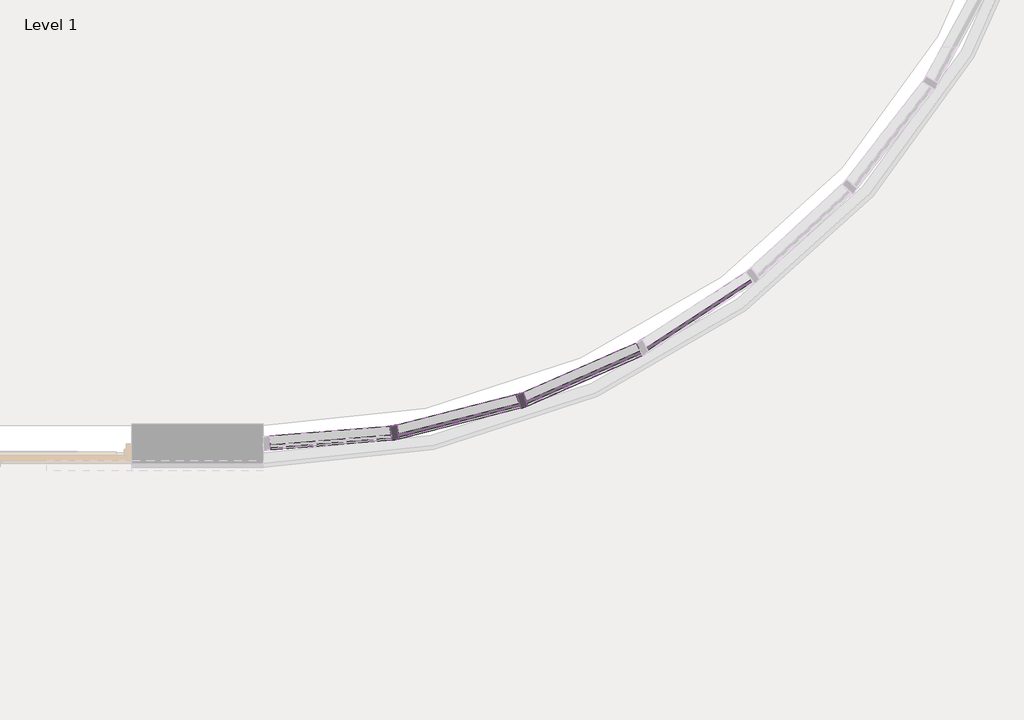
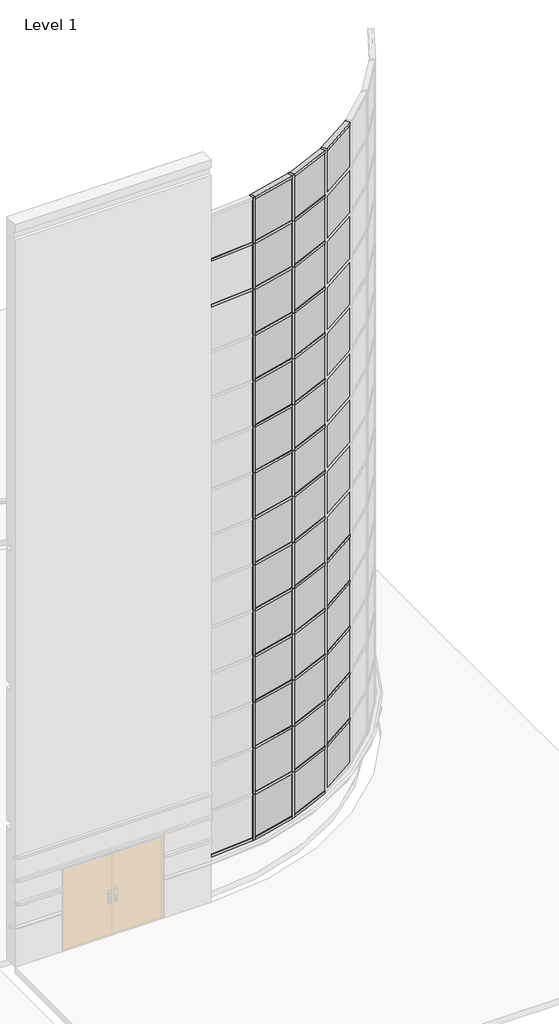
# One storey, part 5 of 20: 67 members, 42 plates.
"""IFC4 building model written with IfcOpenShell, lengths in millimetres."""

from ifc_helpers import new_model, si_unit, origin, place, context, project, spatial, transform, mapped, element, save
from components import member_68fe8548, member_252506b7, member_f830fa99, member_2e3765b8, member_935f61b8, system_panel_glazed_da602fa6, system_panel_glazed_77fd207e

model = new_model("IFC4")

# Units and contexts
model_context = context("Model", 3, world=origin())
ifc_project = project(units=[si_unit("LENGTHUNIT", "METRE", prefix="MILLI")], contexts=[model_context])

# Site, building, storey
site = spatial("IfcSite", under=ifc_project)
building = spatial("IfcBuilding", under=site)
storey = spatial("IfcBuildingStorey", under=building, Name="Level 1", Elevation=0.0)

# Members
placement = place(None, origin())
member_shape = member_68fe8548(model_context)
element("IfcMember", 1, ObjectType="Rectangular Mullion : 2.5\" x 5\" rectangular", at=placement, inside=storey, context=model_context, shape_type="MappedRepresentation", body=[
    mapped(member_shape, transform((21362.2965016, -8766.9966782, 17983.2), x_axis=(0.0, 0.0, 1.0), y_axis=(-0.5469481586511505, 0.8371664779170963, 0.0), z_axis=(-0.8371664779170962, -0.5469481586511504, 0.0))),
])
element("IfcMember", 2, ObjectType="Rectangular Mullion : 2.5\" x 5\" rectangular", at=placement, inside=storey, context=model_context, shape_type="MappedRepresentation", body=[
    mapped(member_shape, transform((20285.0352325, -9245.2338023, 17983.2), x_axis=(0.0, 0.0, 1.0), y_axis=(-0.4016954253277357, 0.9157733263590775, 0.0), z_axis=(-0.9157733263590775, -0.4016954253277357, 0.0))),
])
element("IfcMember", 3, ObjectType="Rectangular Mullion : 2.5\" x 5\" rectangular", at=placement, inside=storey, context=model_context, shape_type="MappedRepresentation", body=[
    mapped(member_shape, transform((19143.7511594, -9539.6370183, 17983.2), x_axis=(0.0, 0.0, 1.0), y_axis=(-0.24548548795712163, 0.9694002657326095, 0.0), z_axis=(-0.9694002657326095, -0.24548548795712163, 0.0))),
])
element("IfcMember", 4, ObjectType="Rectangular Mullion : 2.5\" x 5\" rectangular", at=placement, inside=storey, context=model_context, shape_type="MappedRepresentation", body=[
    mapped(member_shape, transform((21306.6406628, -8797.1161119, 1092.2), x_axis=(0.0, 0.0, -1.0), y_axis=(-0.401695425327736, 0.9157733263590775, 0.0), z_axis=(0.9157733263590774, 0.40169542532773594, 0.0))),
])
element("IfcMember", 5, ObjectType="Rectangular Mullion : 2.5\" x 5\" rectangular", at=placement, inside=storey, context=model_context, shape_type="MappedRepresentation", body=[
    mapped(member_shape, transform((20225.1809709, -9265.7817963, 1092.2), x_axis=(0.0, 0.0, -1.0), y_axis=(-0.24548548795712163, 0.9694002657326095, 0.0), z_axis=(0.9694002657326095, 0.24548548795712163, 0.0))),
])
member_2_shape = member_252506b7(model_context)
element("IfcMember", 6, ObjectType="Rectangular Mullion : 2.5\" x 5\" rectangular", at=placement, inside=storey, context=model_context, shape_type="MappedRepresentation", body=[
    mapped(member_2_shape, transform((19081.3311433, -9550.0530767, 1092.2), x_axis=(0.0, 0.0, -1.0), y_axis=(-0.08257934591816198, 0.9965844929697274, 0.0), z_axis=(0.9965844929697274, 0.08257934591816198, 0.0))),
])
member_3_shape = member_f830fa99(model_context)
element("IfcMember", 7, ObjectType="Rectangular Mullion : 2.5\" x 5\" rectangular", at=placement, inside=storey, context=model_context, shape_type="MappedRepresentation", body=[
    mapped(member_3_shape, transform((21362.2965016, -8766.9966782, 2298.7), x_axis=(0.0, 0.0, 1.0), y_axis=(-0.5469481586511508, 0.837166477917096, 0.0), z_axis=(-0.837166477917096, -0.5469481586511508, 0.0))),
])
element("IfcMember", 8, ObjectType="Rectangular Mullion : 2.5\" x 5\" rectangular", at=placement, inside=storey, context=model_context, shape_type="MappedRepresentation", body=[
    mapped(member_3_shape, transform((20285.0352325, -9245.2338023, 2298.7), x_axis=(0.0, 0.0, 1.0), y_axis=(-0.40169542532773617, 0.9157733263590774, 0.0), z_axis=(-0.9157733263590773, -0.4016954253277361, 0.0))),
])
element("IfcMember", 9, ObjectType="Rectangular Mullion : 2.5\" x 5\" rectangular", at=placement, inside=storey, context=model_context, shape_type="MappedRepresentation", body=[
    mapped(member_3_shape, transform((19143.7511594, -9539.6370183, 2298.7), x_axis=(0.0, 0.0, 1.0), y_axis=(-0.2454854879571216, 0.9694002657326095, 0.0), z_axis=(-0.9694002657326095, -0.2454854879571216, 0.0))),
])
element("IfcMember", 10, ObjectType="Rectangular Mullion : 2.5\" x 5\" rectangular", at=placement, inside=storey, context=model_context, shape_type="MappedRepresentation", body=[
    mapped(member_3_shape, transform((21362.2965016, -8766.9966782, 3505.2), x_axis=(0.0, 0.0, 1.0), y_axis=(-0.5469481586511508, 0.837166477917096, 0.0), z_axis=(-0.837166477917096, -0.5469481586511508, 0.0))),
])
element("IfcMember", 11, ObjectType="Rectangular Mullion : 2.5\" x 5\" rectangular", at=placement, inside=storey, context=model_context, shape_type="MappedRepresentation", body=[
    mapped(member_3_shape, transform((20285.0352325, -9245.2338023, 3505.2), x_axis=(0.0, 0.0, 1.0), y_axis=(-0.40169542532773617, 0.9157733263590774, 0.0), z_axis=(-0.9157733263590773, -0.4016954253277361, 0.0))),
])
element("IfcMember", 12, ObjectType="Rectangular Mullion : 2.5\" x 5\" rectangular", at=placement, inside=storey, context=model_context, shape_type="MappedRepresentation", body=[
    mapped(member_3_shape, transform((19143.7511594, -9539.6370183, 3505.2), x_axis=(0.0, 0.0, 1.0), y_axis=(-0.24548548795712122, 0.9694002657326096, 0.0), z_axis=(-0.9694002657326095, -0.2454854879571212, 0.0))),
])
element("IfcMember", 13, ObjectType="Rectangular Mullion : 2.5\" x 5\" rectangular", at=placement, inside=storey, context=model_context, shape_type="MappedRepresentation", body=[
    mapped(member_3_shape, transform((21362.2965016, -8766.9966782, 4711.7), x_axis=(0.0, 0.0, 1.0), y_axis=(-0.5469481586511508, 0.837166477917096, 0.0), z_axis=(-0.837166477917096, -0.5469481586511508, 0.0))),
])
element("IfcMember", 14, ObjectType="Rectangular Mullion : 2.5\" x 5\" rectangular", at=placement, inside=storey, context=model_context, shape_type="MappedRepresentation", body=[
    mapped(member_3_shape, transform((20285.0352325, -9245.2338023, 4711.7), x_axis=(0.0, 0.0, 1.0), y_axis=(-0.40169542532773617, 0.9157733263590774, 0.0), z_axis=(-0.9157733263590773, -0.4016954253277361, 0.0))),
])
element("IfcMember", 15, ObjectType="Rectangular Mullion : 2.5\" x 5\" rectangular", at=placement, inside=storey, context=model_context, shape_type="MappedRepresentation", body=[
    mapped(member_3_shape, transform((19143.7511594, -9539.6370183, 4711.7), x_axis=(0.0, 0.0, 1.0), y_axis=(-0.24548548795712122, 0.9694002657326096, 0.0), z_axis=(-0.9694002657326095, -0.2454854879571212, 0.0))),
])
element("IfcMember", 16, ObjectType="Rectangular Mullion : 2.5\" x 5\" rectangular", at=placement, inside=storey, context=model_context, shape_type="MappedRepresentation", body=[
    mapped(member_3_shape, transform((21362.2965016, -8766.9966782, 5918.2), x_axis=(0.0, 0.0, 1.0), y_axis=(-0.5469481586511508, 0.837166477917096, 0.0), z_axis=(-0.837166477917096, -0.5469481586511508, 0.0))),
])
element("IfcMember", 17, ObjectType="Rectangular Mullion : 2.5\" x 5\" rectangular", at=placement, inside=storey, context=model_context, shape_type="MappedRepresentation", body=[
    mapped(member_3_shape, transform((20285.0352325, -9245.2338023, 5918.2), x_axis=(0.0, 0.0, 1.0), y_axis=(-0.40169542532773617, 0.9157733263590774, 0.0), z_axis=(-0.9157733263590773, -0.4016954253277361, 0.0))),
])
element("IfcMember", 18, ObjectType="Rectangular Mullion : 2.5\" x 5\" rectangular", at=placement, inside=storey, context=model_context, shape_type="MappedRepresentation", body=[
    mapped(member_3_shape, transform((19143.7511594, -9539.6370183, 5918.2), x_axis=(0.0, 0.0, 1.0), y_axis=(-0.24548548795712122, 0.9694002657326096, 0.0), z_axis=(-0.9694002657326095, -0.2454854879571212, 0.0))),
])
element("IfcMember", 19, ObjectType="Rectangular Mullion : 2.5\" x 5\" rectangular", at=placement, inside=storey, context=model_context, shape_type="MappedRepresentation", body=[
    mapped(member_3_shape, transform((21362.2965016, -8766.9966782, 7124.7), x_axis=(0.0, 0.0, 1.0), y_axis=(-0.5469481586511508, 0.837166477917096, 0.0), z_axis=(-0.837166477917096, -0.5469481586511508, 0.0))),
])
element("IfcMember", 20, ObjectType="Rectangular Mullion : 2.5\" x 5\" rectangular", at=placement, inside=storey, context=model_context, shape_type="MappedRepresentation", body=[
    mapped(member_3_shape, transform((20285.0352325, -9245.2338023, 7124.7), x_axis=(0.0, 0.0, 1.0), y_axis=(-0.4016954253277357, 0.9157733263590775, 0.0), z_axis=(-0.9157733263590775, -0.4016954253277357, 0.0))),
])
element("IfcMember", 21, ObjectType="Rectangular Mullion : 2.5\" x 5\" rectangular", at=placement, inside=storey, context=model_context, shape_type="MappedRepresentation", body=[
    mapped(member_3_shape, transform((19143.7511594, -9539.6370183, 7124.7), x_axis=(0.0, 0.0, 1.0), y_axis=(-0.24548548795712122, 0.9694002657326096, 0.0), z_axis=(-0.9694002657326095, -0.2454854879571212, 0.0))),
])
element("IfcMember", 22, ObjectType="Rectangular Mullion : 2.5\" x 5\" rectangular", at=placement, inside=storey, context=model_context, shape_type="MappedRepresentation", body=[
    mapped(member_3_shape, transform((20285.0352325, -9245.2338023, 8331.2), x_axis=(0.0, 0.0, 1.0), y_axis=(-0.4016954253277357, 0.9157733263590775, 0.0), z_axis=(-0.9157733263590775, -0.4016954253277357, 0.0))),
])
element("IfcMember", 23, ObjectType="Rectangular Mullion : 2.5\" x 5\" rectangular", at=placement, inside=storey, context=model_context, shape_type="MappedRepresentation", body=[
    mapped(member_3_shape, transform((19143.7511594, -9539.6370183, 8331.2), x_axis=(0.0, 0.0, 1.0), y_axis=(-0.24548548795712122, 0.9694002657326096, 0.0), z_axis=(-0.9694002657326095, -0.2454854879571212, 0.0))),
])
element("IfcMember", 24, ObjectType="Rectangular Mullion : 2.5\" x 5\" rectangular", at=placement, inside=storey, context=model_context, shape_type="MappedRepresentation", body=[
    mapped(member_3_shape, transform((20285.0352325, -9245.2338023, 9537.7), x_axis=(0.0, 0.0, 1.0), y_axis=(-0.4016954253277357, 0.9157733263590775, 0.0), z_axis=(-0.9157733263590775, -0.4016954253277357, 0.0))),
])
element("IfcMember", 25, ObjectType="Rectangular Mullion : 2.5\" x 5\" rectangular", at=placement, inside=storey, context=model_context, shape_type="MappedRepresentation", body=[
    mapped(member_3_shape, transform((19143.7511594, -9539.6370183, 9537.7), x_axis=(0.0, 0.0, 1.0), y_axis=(-0.24548548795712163, 0.9694002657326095, 0.0), z_axis=(-0.9694002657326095, -0.24548548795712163, 0.0))),
])
element("IfcMember", 26, ObjectType="Rectangular Mullion : 2.5\" x 5\" rectangular", at=placement, inside=storey, context=model_context, shape_type="MappedRepresentation", body=[
    mapped(member_3_shape, transform((20285.0352325, -9245.2338023, 10744.2), x_axis=(0.0, 0.0, 1.0), y_axis=(-0.4016954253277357, 0.9157733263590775, 0.0), z_axis=(-0.9157733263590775, -0.4016954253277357, 0.0))),
])
element("IfcMember", 27, ObjectType="Rectangular Mullion : 2.5\" x 5\" rectangular", at=placement, inside=storey, context=model_context, shape_type="MappedRepresentation", body=[
    mapped(member_3_shape, transform((19143.7511594, -9539.6370183, 10744.2), x_axis=(0.0, 0.0, 1.0), y_axis=(-0.24548548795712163, 0.9694002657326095, 0.0), z_axis=(-0.9694002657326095, -0.24548548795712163, 0.0))),
])
element("IfcMember", 28, ObjectType="Rectangular Mullion : 2.5\" x 5\" rectangular", at=placement, inside=storey, context=model_context, shape_type="MappedRepresentation", body=[
    mapped(member_3_shape, transform((20285.0352325, -9245.2338023, 11950.7), x_axis=(0.0, 0.0, 1.0), y_axis=(-0.4016954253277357, 0.9157733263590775, 0.0), z_axis=(-0.9157733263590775, -0.4016954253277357, 0.0))),
])
element("IfcMember", 29, ObjectType="Rectangular Mullion : 2.5\" x 5\" rectangular", at=placement, inside=storey, context=model_context, shape_type="MappedRepresentation", body=[
    mapped(member_3_shape, transform((19143.7511594, -9539.6370183, 11950.7), x_axis=(0.0, 0.0, 1.0), y_axis=(-0.24548548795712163, 0.9694002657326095, 0.0), z_axis=(-0.9694002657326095, -0.24548548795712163, 0.0))),
])
element("IfcMember", 30, ObjectType="Rectangular Mullion : 2.5\" x 5\" rectangular", at=placement, inside=storey, context=model_context, shape_type="MappedRepresentation", body=[
    mapped(member_3_shape, transform((20285.0352325, -9245.2338023, 13157.2), x_axis=(0.0, 0.0, 1.0), y_axis=(-0.40169542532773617, 0.9157733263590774, 0.0), z_axis=(-0.9157733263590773, -0.4016954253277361, 0.0))),
])
element("IfcMember", 31, ObjectType="Rectangular Mullion : 2.5\" x 5\" rectangular", at=placement, inside=storey, context=model_context, shape_type="MappedRepresentation", body=[
    mapped(member_3_shape, transform((19143.7511594, -9539.6370183, 13157.2), x_axis=(0.0, 0.0, 1.0), y_axis=(-0.2454854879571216, 0.9694002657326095, 0.0), z_axis=(-0.9694002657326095, -0.2454854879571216, 0.0))),
])
element("IfcMember", 32, ObjectType="Rectangular Mullion : 2.5\" x 5\" rectangular", at=placement, inside=storey, context=model_context, shape_type="MappedRepresentation", body=[
    mapped(member_3_shape, transform((20285.0352325, -9245.2338023, 14363.7), x_axis=(0.0, 0.0, 1.0), y_axis=(-0.4016954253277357, 0.9157733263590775, 0.0), z_axis=(-0.9157733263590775, -0.4016954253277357, 0.0))),
])
element("IfcMember", 33, ObjectType="Rectangular Mullion : 2.5\" x 5\" rectangular", at=placement, inside=storey, context=model_context, shape_type="MappedRepresentation", body=[
    mapped(member_3_shape, transform((19143.7511594, -9539.6370183, 14363.7), x_axis=(0.0, 0.0, 1.0), y_axis=(-0.24548548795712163, 0.9694002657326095, 0.0), z_axis=(-0.9694002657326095, -0.24548548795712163, 0.0))),
])
element("IfcMember", 34, ObjectType="Rectangular Mullion : 2.5\" x 5\" rectangular", at=placement, inside=storey, context=model_context, shape_type="MappedRepresentation", body=[
    mapped(member_3_shape, transform((20285.0352325, -9245.2338023, 15570.2), x_axis=(0.0, 0.0, 1.0), y_axis=(-0.40169542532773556, 0.9157733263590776, 0.0), z_axis=(-0.9157733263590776, -0.40169542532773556, 0.0))),
])
element("IfcMember", 35, ObjectType="Rectangular Mullion : 2.5\" x 5\" rectangular", at=placement, inside=storey, context=model_context, shape_type="MappedRepresentation", body=[
    mapped(member_3_shape, transform((19143.7511594, -9539.6370183, 15570.2), x_axis=(0.0, 0.0, 1.0), y_axis=(-0.24548548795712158, 0.9694002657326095, 0.0), z_axis=(-0.9694002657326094, -0.24548548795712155, 0.0))),
])
element("IfcMember", 36, ObjectType="Rectangular Mullion : 2.5\" x 5\" rectangular", at=placement, inside=storey, context=model_context, shape_type="MappedRepresentation", body=[
    mapped(member_3_shape, transform((20285.0352325, -9245.2338023, 16776.7), x_axis=(0.0, 0.0, 1.0), y_axis=(-0.40169542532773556, 0.9157733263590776, 0.0), z_axis=(-0.9157733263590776, -0.40169542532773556, 0.0))),
])
element("IfcMember", 37, ObjectType="Rectangular Mullion : 2.5\" x 5\" rectangular", at=placement, inside=storey, context=model_context, shape_type="MappedRepresentation", body=[
    mapped(member_3_shape, transform((19143.7511594, -9539.6370183, 16776.7), x_axis=(0.0, 0.0, 1.0), y_axis=(-0.24548548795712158, 0.9694002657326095, 0.0), z_axis=(-0.9694002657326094, -0.24548548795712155, 0.0))),
])
member_4_shape = member_2e3765b8(model_context)
element("IfcMember", 38, ObjectType="Rectangular Mullion : 2.5\" x 5\" rectangular", at=placement, inside=storey, context=model_context, shape_type="MappedRepresentation", body=[
    mapped(member_4_shape, transform((18001.2170874, -9639.5538796, 15570.2), x_axis=(0.0, 0.0, 1.0), y_axis=(-0.08257934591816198, 0.9965844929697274, 0.0), z_axis=(-0.9965844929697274, -0.08257934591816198, 0.0))),
])
element("IfcMember", 39, ObjectType="Rectangular Mullion : 2.5\" x 5\" rectangular", at=placement, inside=storey, context=model_context, shape_type="MappedRepresentation", body=[
    mapped(member_4_shape, transform((18001.2170874, -9639.5538796, 16776.7), x_axis=(0.0, 0.0, 1.0), y_axis=(-0.08257934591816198, 0.9965844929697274, 0.0), z_axis=(-0.9965844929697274, -0.08257934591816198, 0.0))),
])
member_5_shape = member_935f61b8(model_context)
element("IfcMember", 40, ObjectType="Rectangular Mullion : 2.5\" x 5\" rectangular", at=placement, inside=storey, context=model_context, shape_type="MappedRepresentation", body=[
    mapped(member_5_shape, transform((20255.9594293, -9257.987632, 1092.2), x_axis=(-0.9458172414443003, -0.3246994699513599, 0.0), y_axis=(-0.3246994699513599, 0.9458172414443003, 0.0), z_axis=(0.0, 0.0, -1.0))),
])
element("IfcMember", 41, ObjectType="Rectangular Mullion : 2.5\" x 5\" rectangular", at=placement, inside=storey, context=model_context, shape_type="MappedRepresentation", body=[
    mapped(member_5_shape, transform((19112.972701, -9547.4311825, 1092.2), x_axis=(-0.986361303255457, -0.16459459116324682, 0.0), y_axis=(-0.16459459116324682, 0.986361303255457, 0.0), z_axis=(0.0, 0.0, -1.0))),
])
element("IfcMember", 42, ObjectType="Rectangular Mullion : 2.5\" x 5\" rectangular", at=placement, inside=storey, context=model_context, shape_type="MappedRepresentation", body=[
    mapped(member_5_shape, transform((20255.9594293, -9257.987632, 2298.7), x_axis=(-0.9458172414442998, -0.32469946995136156, 0.0), y_axis=(-0.32469946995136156, 0.9458172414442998, 0.0), z_axis=(0.0, 0.0, -1.0))),
])
element("IfcMember", 43, ObjectType="Rectangular Mullion : 2.5\" x 5\" rectangular", at=placement, inside=storey, context=model_context, shape_type="MappedRepresentation", body=[
    mapped(member_5_shape, transform((19112.972701, -9547.4311825, 2298.7), x_axis=(-0.986361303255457, -0.16459459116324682, 0.0), y_axis=(-0.16459459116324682, 0.986361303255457, 0.0), z_axis=(0.0, 0.0, -1.0))),
])
element("IfcMember", 44, ObjectType="Rectangular Mullion : 2.5\" x 5\" rectangular", at=placement, inside=storey, context=model_context, shape_type="MappedRepresentation", body=[
    mapped(member_5_shape, transform((20255.9594293, -9257.987632, 3505.2), x_axis=(-0.9458172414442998, -0.32469946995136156, 0.0), y_axis=(-0.32469946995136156, 0.9458172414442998, 0.0), z_axis=(0.0, 0.0, -1.0))),
])
element("IfcMember", 45, ObjectType="Rectangular Mullion : 2.5\" x 5\" rectangular", at=placement, inside=storey, context=model_context, shape_type="MappedRepresentation", body=[
    mapped(member_5_shape, transform((19112.972701, -9547.4311825, 3505.2), x_axis=(-0.986361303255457, -0.16459459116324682, 0.0), y_axis=(-0.16459459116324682, 0.986361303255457, 0.0), z_axis=(0.0, 0.0, -1.0))),
])
element("IfcMember", 46, ObjectType="Rectangular Mullion : 2.5\" x 5\" rectangular", at=placement, inside=storey, context=model_context, shape_type="MappedRepresentation", body=[
    mapped(member_5_shape, transform((20255.9594293, -9257.987632, 4711.7), x_axis=(-0.9458172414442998, -0.32469946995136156, 0.0), y_axis=(-0.32469946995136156, 0.9458172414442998, 0.0), z_axis=(0.0, 0.0, -1.0))),
])
element("IfcMember", 47, ObjectType="Rectangular Mullion : 2.5\" x 5\" rectangular", at=placement, inside=storey, context=model_context, shape_type="MappedRepresentation", body=[
    mapped(member_5_shape, transform((19112.972701, -9547.4311825, 4711.7), x_axis=(-0.986361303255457, -0.16459459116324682, 0.0), y_axis=(-0.16459459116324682, 0.986361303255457, 0.0), z_axis=(0.0, 0.0, -1.0))),
])
element("IfcMember", 48, ObjectType="Rectangular Mullion : 2.5\" x 5\" rectangular", at=placement, inside=storey, context=model_context, shape_type="MappedRepresentation", body=[
    mapped(member_5_shape, transform((20255.9594293, -9257.987632, 5918.2), x_axis=(-0.9458172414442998, -0.32469946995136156, 0.0), y_axis=(-0.32469946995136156, 0.9458172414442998, 0.0), z_axis=(0.0, 0.0, -1.0))),
])
element("IfcMember", 49, ObjectType="Rectangular Mullion : 2.5\" x 5\" rectangular", at=placement, inside=storey, context=model_context, shape_type="MappedRepresentation", body=[
    mapped(member_5_shape, transform((19112.972701, -9547.4311825, 5918.2), x_axis=(-0.986361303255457, -0.16459459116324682, 0.0), y_axis=(-0.16459459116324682, 0.986361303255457, 0.0), z_axis=(0.0, 0.0, -1.0))),
])
element("IfcMember", 50, ObjectType="Rectangular Mullion : 2.5\" x 5\" rectangular", at=placement, inside=storey, context=model_context, shape_type="MappedRepresentation", body=[
    mapped(member_5_shape, transform((20255.9594293, -9257.987632, 7124.7), x_axis=(-0.9458172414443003, -0.3246994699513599, 0.0), y_axis=(-0.3246994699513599, 0.9458172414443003, 0.0), z_axis=(0.0, 0.0, -1.0))),
])
element("IfcMember", 51, ObjectType="Rectangular Mullion : 2.5\" x 5\" rectangular", at=placement, inside=storey, context=model_context, shape_type="MappedRepresentation", body=[
    mapped(member_5_shape, transform((19112.972701, -9547.4311825, 7124.7), x_axis=(-0.986361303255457, -0.16459459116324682, 0.0), y_axis=(-0.16459459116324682, 0.986361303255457, 0.0), z_axis=(0.0, 0.0, -1.0))),
])
element("IfcMember", 52, ObjectType="Rectangular Mullion : 2.5\" x 5\" rectangular", at=placement, inside=storey, context=model_context, shape_type="MappedRepresentation", body=[
    mapped(member_5_shape, transform((20255.9594293, -9257.987632, 8331.2), x_axis=(-0.9458172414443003, -0.3246994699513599, 0.0), y_axis=(-0.3246994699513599, 0.9458172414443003, 0.0), z_axis=(0.0, 0.0, -1.0))),
])
element("IfcMember", 53, ObjectType="Rectangular Mullion : 2.5\" x 5\" rectangular", at=placement, inside=storey, context=model_context, shape_type="MappedRepresentation", body=[
    mapped(member_5_shape, transform((19112.972701, -9547.4311825, 8331.2), x_axis=(-0.986361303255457, -0.16459459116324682, 0.0), y_axis=(-0.16459459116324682, 0.986361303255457, 0.0), z_axis=(0.0, 0.0, -1.0))),
])
element("IfcMember", 54, ObjectType="Rectangular Mullion : 2.5\" x 5\" rectangular", at=placement, inside=storey, context=model_context, shape_type="MappedRepresentation", body=[
    mapped(member_5_shape, transform((20255.9594293, -9257.987632, 9537.7), x_axis=(-0.9458172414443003, -0.3246994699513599, 0.0), y_axis=(-0.3246994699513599, 0.9458172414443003, 0.0), z_axis=(0.0, 0.0, -1.0))),
])
element("IfcMember", 55, ObjectType="Rectangular Mullion : 2.5\" x 5\" rectangular", at=placement, inside=storey, context=model_context, shape_type="MappedRepresentation", body=[
    mapped(member_5_shape, transform((19112.972701, -9547.4311825, 9537.7), x_axis=(-0.986361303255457, -0.16459459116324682, 0.0), y_axis=(-0.16459459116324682, 0.986361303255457, 0.0), z_axis=(0.0, 0.0, -1.0))),
])
element("IfcMember", 56, ObjectType="Rectangular Mullion : 2.5\" x 5\" rectangular", at=placement, inside=storey, context=model_context, shape_type="MappedRepresentation", body=[
    mapped(member_5_shape, transform((20255.9594293, -9257.987632, 10744.2), x_axis=(-0.9458172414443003, -0.3246994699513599, 0.0), y_axis=(-0.3246994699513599, 0.9458172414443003, 0.0), z_axis=(0.0, 0.0, -1.0))),
])
element("IfcMember", 57, ObjectType="Rectangular Mullion : 2.5\" x 5\" rectangular", at=placement, inside=storey, context=model_context, shape_type="MappedRepresentation", body=[
    mapped(member_5_shape, transform((19112.972701, -9547.4311825, 10744.2), x_axis=(-0.986361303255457, -0.16459459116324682, 0.0), y_axis=(-0.16459459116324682, 0.986361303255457, 0.0), z_axis=(0.0, 0.0, -1.0))),
])
element("IfcMember", 58, ObjectType="Rectangular Mullion : 2.5\" x 5\" rectangular", at=placement, inside=storey, context=model_context, shape_type="MappedRepresentation", body=[
    mapped(member_5_shape, transform((20255.9594293, -9257.987632, 11950.7), x_axis=(-0.9458172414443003, -0.3246994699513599, 0.0), y_axis=(-0.3246994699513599, 0.9458172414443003, 0.0), z_axis=(0.0, 0.0, -1.0))),
])
element("IfcMember", 59, ObjectType="Rectangular Mullion : 2.5\" x 5\" rectangular", at=placement, inside=storey, context=model_context, shape_type="MappedRepresentation", body=[
    mapped(member_5_shape, transform((19112.972701, -9547.4311825, 11950.7), x_axis=(-0.986361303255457, -0.16459459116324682, 0.0), y_axis=(-0.16459459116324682, 0.986361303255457, 0.0), z_axis=(0.0, 0.0, -1.0))),
])
element("IfcMember", 60, ObjectType="Rectangular Mullion : 2.5\" x 5\" rectangular", at=placement, inside=storey, context=model_context, shape_type="MappedRepresentation", body=[
    mapped(member_5_shape, transform((20255.9594293, -9257.987632, 13157.2), x_axis=(-0.9458172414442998, -0.32469946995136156, 0.0), y_axis=(-0.32469946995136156, 0.9458172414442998, 0.0), z_axis=(0.0, 0.0, -1.0))),
])
element("IfcMember", 61, ObjectType="Rectangular Mullion : 2.5\" x 5\" rectangular", at=placement, inside=storey, context=model_context, shape_type="MappedRepresentation", body=[
    mapped(member_5_shape, transform((19112.972701, -9547.4311825, 13157.2), x_axis=(-0.986361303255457, -0.16459459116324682, 0.0), y_axis=(-0.16459459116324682, 0.986361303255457, 0.0), z_axis=(0.0, 0.0, -1.0))),
])
element("IfcMember", 62, ObjectType="Rectangular Mullion : 2.5\" x 5\" rectangular", at=placement, inside=storey, context=model_context, shape_type="MappedRepresentation", body=[
    mapped(member_5_shape, transform((20255.9594293, -9257.987632, 14363.7), x_axis=(-0.9458172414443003, -0.3246994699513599, 0.0), y_axis=(-0.3246994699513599, 0.9458172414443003, 0.0), z_axis=(0.0, 0.0, -1.0))),
])
element("IfcMember", 63, ObjectType="Rectangular Mullion : 2.5\" x 5\" rectangular", at=placement, inside=storey, context=model_context, shape_type="MappedRepresentation", body=[
    mapped(member_5_shape, transform((19112.972701, -9547.4311825, 14363.7), x_axis=(-0.986361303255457, -0.16459459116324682, 0.0), y_axis=(-0.16459459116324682, 0.986361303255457, 0.0), z_axis=(0.0, 0.0, -1.0))),
])
element("IfcMember", 64, ObjectType="Rectangular Mullion : 2.5\" x 5\" rectangular", at=placement, inside=storey, context=model_context, shape_type="MappedRepresentation", body=[
    mapped(member_5_shape, transform((20255.9594293, -9257.987632, 15570.2), x_axis=(-0.9458172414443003, -0.3246994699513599, 0.0), y_axis=(-0.3246994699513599, 0.9458172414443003, 0.0), z_axis=(0.0, 0.0, -1.0))),
])
element("IfcMember", 65, ObjectType="Rectangular Mullion : 2.5\" x 5\" rectangular", at=placement, inside=storey, context=model_context, shape_type="MappedRepresentation", body=[
    mapped(member_5_shape, transform((19112.972701, -9547.4311825, 15570.2), x_axis=(-0.9863613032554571, -0.16459459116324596, 0.0), y_axis=(-0.16459459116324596, 0.9863613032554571, 0.0), z_axis=(0.0, 0.0, -1.0))),
])
element("IfcMember", 66, ObjectType="Rectangular Mullion : 2.5\" x 5\" rectangular", at=placement, inside=storey, context=model_context, shape_type="MappedRepresentation", body=[
    mapped(member_5_shape, transform((20255.9594293, -9257.987632, 16776.7), x_axis=(-0.9458172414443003, -0.3246994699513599, 0.0), y_axis=(-0.3246994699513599, 0.9458172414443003, 0.0), z_axis=(0.0, 0.0, -1.0))),
])
element("IfcMember", 67, ObjectType="Rectangular Mullion : 2.5\" x 5\" rectangular", at=placement, inside=storey, context=model_context, shape_type="MappedRepresentation", body=[
    mapped(member_5_shape, transform((19112.972701, -9547.4311825, 16776.7), x_axis=(-0.9863613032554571, -0.16459459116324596, 0.0), y_axis=(-0.16459459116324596, 0.9863613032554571, 0.0), z_axis=(0.0, 0.0, -1.0))),
])

# Plates
system_panel_glazed_shape = system_panel_glazed_da602fa6(model_context)
element("IfcPlate", 68, ObjectType="System Panel : Glazed", at=placement, inside=storey, context=model_context, shape_type="MappedRepresentation", body=[
    mapped(system_panel_glazed_shape, transform((21829.2536598, -8461.91834, 1155.7), x_axis=(-0.8371664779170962, -0.5469481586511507, 0.0), y_axis=(0.5469481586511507, -0.8371664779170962, 0.0), z_axis=(0.0, 0.0, 1.0))),
])
element("IfcPlate", 69, ObjectType="System Panel : Glazed", at=placement, inside=storey, context=model_context, shape_type="MappedRepresentation", body=[
    mapped(system_panel_glazed_shape, transform((20795.8379476, -9021.1749571, 1155.7), x_axis=(-0.9157733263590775, -0.40169542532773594, 0.0), y_axis=(0.40169542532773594, -0.9157733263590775, 0.0), z_axis=(0.0, 0.0, 1.0))),
])
element("IfcPlate", 70, ObjectType="System Panel : Glazed", at=placement, inside=storey, context=model_context, shape_type="MappedRepresentation", body=[
    mapped(system_panel_glazed_shape, transform((19684.4660652, -9402.7094073, 1155.7), x_axis=(-0.9694002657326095, -0.24548548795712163, 0.0), y_axis=(0.24548548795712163, -0.9694002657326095, 0.0), z_axis=(0.0, 0.0, 1.0))),
])
element("IfcPlate", 71, ObjectType="System Panel : Glazed", at=placement, inside=storey, context=model_context, shape_type="MappedRepresentation", body=[
    mapped(system_panel_glazed_shape, transform((21829.2536598, -8461.91834, 16808.45), x_axis=(-0.8371664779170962, -0.5469481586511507, 0.0), y_axis=(0.5469481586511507, -0.8371664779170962, 0.0), z_axis=(0.0, 0.0, 1.0))),
])
element("IfcPlate", 72, ObjectType="System Panel : Glazed", at=placement, inside=storey, context=model_context, shape_type="MappedRepresentation", body=[
    mapped(system_panel_glazed_shape, transform((20795.8379476, -9021.1749571, 16808.45), x_axis=(-0.9157733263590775, -0.40169542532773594, 0.0), y_axis=(0.40169542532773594, -0.9157733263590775, 0.0), z_axis=(0.0, 0.0, 1.0))),
])
element("IfcPlate", 73, ObjectType="System Panel : Glazed", at=placement, inside=storey, context=model_context, shape_type="MappedRepresentation", body=[
    mapped(system_panel_glazed_shape, transform((19684.4660652, -9402.7094073, 16808.45), x_axis=(-0.9694002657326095, -0.24548548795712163, 0.0), y_axis=(0.24548548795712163, -0.9694002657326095, 0.0), z_axis=(0.0, 0.0, 1.0))),
])
system_panel_glazed_2_shape = system_panel_glazed_77fd207e(model_context)
element("IfcPlate", 74, ObjectType="System Panel : Glazed", at=placement, inside=storey, context=model_context, shape_type="MappedRepresentation", body=[
    mapped(system_panel_glazed_2_shape, transform((21829.2536598, -8461.91834, 2330.45), x_axis=(-0.8371664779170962, -0.5469481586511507, 0.0), y_axis=(0.5469481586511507, -0.8371664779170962, 0.0), z_axis=(0.0, 0.0, 1.0))),
])
element("IfcPlate", 75, ObjectType="System Panel : Glazed", at=placement, inside=storey, context=model_context, shape_type="MappedRepresentation", body=[
    mapped(system_panel_glazed_2_shape, transform((20795.8379476, -9021.1749571, 2330.45), x_axis=(-0.9157733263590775, -0.401695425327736, 0.0), y_axis=(0.401695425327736, -0.9157733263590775, 0.0), z_axis=(0.0, 0.0, 1.0))),
])
element("IfcPlate", 76, ObjectType="System Panel : Glazed", at=placement, inside=storey, context=model_context, shape_type="MappedRepresentation", body=[
    mapped(system_panel_glazed_2_shape, transform((19684.4660652, -9402.7094073, 2330.45), x_axis=(-0.9694002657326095, -0.24548548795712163, 0.0), y_axis=(0.24548548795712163, -0.9694002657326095, 0.0), z_axis=(0.0, 0.0, 1.0))),
])
element("IfcPlate", 77, ObjectType="System Panel : Glazed", at=placement, inside=storey, context=model_context, shape_type="MappedRepresentation", body=[
    mapped(system_panel_glazed_2_shape, transform((21829.2536598, -8461.91834, 3536.95), x_axis=(-0.8371664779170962, -0.5469481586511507, 0.0), y_axis=(0.5469481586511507, -0.8371664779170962, 0.0), z_axis=(0.0, 0.0, 1.0))),
])
element("IfcPlate", 78, ObjectType="System Panel : Glazed", at=placement, inside=storey, context=model_context, shape_type="MappedRepresentation", body=[
    mapped(system_panel_glazed_2_shape, transform((20795.8379476, -9021.1749571, 3536.95), x_axis=(-0.9157733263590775, -0.401695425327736, 0.0), y_axis=(0.401695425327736, -0.9157733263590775, 0.0), z_axis=(0.0, 0.0, 1.0))),
])
element("IfcPlate", 79, ObjectType="System Panel : Glazed", at=placement, inside=storey, context=model_context, shape_type="MappedRepresentation", body=[
    mapped(system_panel_glazed_2_shape, transform((19684.4660652, -9402.7094073, 3536.95), x_axis=(-0.9694002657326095, -0.24548548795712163, 0.0), y_axis=(0.24548548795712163, -0.9694002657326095, 0.0), z_axis=(0.0, 0.0, 1.0))),
])
element("IfcPlate", 80, ObjectType="System Panel : Glazed", at=placement, inside=storey, context=model_context, shape_type="MappedRepresentation", body=[
    mapped(system_panel_glazed_2_shape, transform((21829.2536598, -8461.91834, 4743.45), x_axis=(-0.8371664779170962, -0.5469481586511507, 0.0), y_axis=(0.5469481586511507, -0.8371664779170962, 0.0), z_axis=(0.0, 0.0, 1.0))),
])
element("IfcPlate", 81, ObjectType="System Panel : Glazed", at=placement, inside=storey, context=model_context, shape_type="MappedRepresentation", body=[
    mapped(system_panel_glazed_2_shape, transform((20795.8379476, -9021.1749571, 4743.45), x_axis=(-0.9157733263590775, -0.40169542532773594, 0.0), y_axis=(0.40169542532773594, -0.9157733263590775, 0.0), z_axis=(0.0, 0.0, 1.0))),
])
element("IfcPlate", 82, ObjectType="System Panel : Glazed", at=placement, inside=storey, context=model_context, shape_type="MappedRepresentation", body=[
    mapped(system_panel_glazed_2_shape, transform((19684.4660652, -9402.7094073, 4743.45), x_axis=(-0.9694002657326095, -0.24548548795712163, 0.0), y_axis=(0.24548548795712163, -0.9694002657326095, 0.0), z_axis=(0.0, 0.0, 1.0))),
])
element("IfcPlate", 83, ObjectType="System Panel : Glazed", at=placement, inside=storey, context=model_context, shape_type="MappedRepresentation", body=[
    mapped(system_panel_glazed_2_shape, transform((21829.2536598, -8461.91834, 5949.95), x_axis=(-0.8371664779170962, -0.5469481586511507, 0.0), y_axis=(0.5469481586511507, -0.8371664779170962, 0.0), z_axis=(0.0, 0.0, 1.0))),
])
element("IfcPlate", 84, ObjectType="System Panel : Glazed", at=placement, inside=storey, context=model_context, shape_type="MappedRepresentation", body=[
    mapped(system_panel_glazed_2_shape, transform((20795.8379476, -9021.1749571, 5949.95), x_axis=(-0.9157733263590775, -0.401695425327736, 0.0), y_axis=(0.401695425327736, -0.9157733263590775, 0.0), z_axis=(0.0, 0.0, 1.0))),
])
element("IfcPlate", 85, ObjectType="System Panel : Glazed", at=placement, inside=storey, context=model_context, shape_type="MappedRepresentation", body=[
    mapped(system_panel_glazed_2_shape, transform((19684.4660652, -9402.7094073, 5949.95), x_axis=(-0.9694002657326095, -0.24548548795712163, 0.0), y_axis=(0.24548548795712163, -0.9694002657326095, 0.0), z_axis=(0.0, 0.0, 1.0))),
])
element("IfcPlate", 86, ObjectType="System Panel : Glazed", at=placement, inside=storey, context=model_context, shape_type="MappedRepresentation", body=[
    mapped(system_panel_glazed_2_shape, transform((21829.2536598, -8461.91834, 7156.45), x_axis=(-0.8371664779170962, -0.5469481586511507, 0.0), y_axis=(0.5469481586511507, -0.8371664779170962, 0.0), z_axis=(0.0, 0.0, 1.0))),
])
element("IfcPlate", 87, ObjectType="System Panel : Glazed", at=placement, inside=storey, context=model_context, shape_type="MappedRepresentation", body=[
    mapped(system_panel_glazed_2_shape, transform((20795.8379476, -9021.1749571, 7156.45), x_axis=(-0.9157733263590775, -0.401695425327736, 0.0), y_axis=(0.401695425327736, -0.9157733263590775, 0.0), z_axis=(0.0, 0.0, 1.0))),
])
element("IfcPlate", 88, ObjectType="System Panel : Glazed", at=placement, inside=storey, context=model_context, shape_type="MappedRepresentation", body=[
    mapped(system_panel_glazed_2_shape, transform((19684.4660652, -9402.7094073, 7156.45), x_axis=(-0.9694002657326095, -0.24548548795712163, 0.0), y_axis=(0.24548548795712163, -0.9694002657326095, 0.0), z_axis=(0.0, 0.0, 1.0))),
])
element("IfcPlate", 89, ObjectType="System Panel : Glazed", at=placement, inside=storey, context=model_context, shape_type="MappedRepresentation", body=[
    mapped(system_panel_glazed_2_shape, transform((21829.2536598, -8461.91834, 8362.95), x_axis=(-0.8371664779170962, -0.5469481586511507, 0.0), y_axis=(0.5469481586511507, -0.8371664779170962, 0.0), z_axis=(0.0, 0.0, 1.0))),
])
element("IfcPlate", 90, ObjectType="System Panel : Glazed", at=placement, inside=storey, context=model_context, shape_type="MappedRepresentation", body=[
    mapped(system_panel_glazed_2_shape, transform((20795.8379476, -9021.1749571, 8362.95), x_axis=(-0.9157733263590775, -0.401695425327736, 0.0), y_axis=(0.401695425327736, -0.9157733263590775, 0.0), z_axis=(0.0, 0.0, 1.0))),
])
element("IfcPlate", 91, ObjectType="System Panel : Glazed", at=placement, inside=storey, context=model_context, shape_type="MappedRepresentation", body=[
    mapped(system_panel_glazed_2_shape, transform((19684.4660652, -9402.7094073, 8362.95), x_axis=(-0.9694002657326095, -0.24548548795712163, 0.0), y_axis=(0.24548548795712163, -0.9694002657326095, 0.0), z_axis=(0.0, 0.0, 1.0))),
])
element("IfcPlate", 92, ObjectType="System Panel : Glazed", at=placement, inside=storey, context=model_context, shape_type="MappedRepresentation", body=[
    mapped(system_panel_glazed_2_shape, transform((21829.2536598, -8461.91834, 9569.45), x_axis=(-0.8371664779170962, -0.5469481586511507, 0.0), y_axis=(0.5469481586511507, -0.8371664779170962, 0.0), z_axis=(0.0, 0.0, 1.0))),
])
element("IfcPlate", 93, ObjectType="System Panel : Glazed", at=placement, inside=storey, context=model_context, shape_type="MappedRepresentation", body=[
    mapped(system_panel_glazed_2_shape, transform((20795.8379476, -9021.1749571, 9569.45), x_axis=(-0.9157733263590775, -0.401695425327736, 0.0), y_axis=(0.401695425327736, -0.9157733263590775, 0.0), z_axis=(0.0, 0.0, 1.0))),
])
element("IfcPlate", 94, ObjectType="System Panel : Glazed", at=placement, inside=storey, context=model_context, shape_type="MappedRepresentation", body=[
    mapped(system_panel_glazed_2_shape, transform((19684.4660652, -9402.7094073, 9569.45), x_axis=(-0.9694002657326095, -0.24548548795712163, 0.0), y_axis=(0.24548548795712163, -0.9694002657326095, 0.0), z_axis=(0.0, 0.0, 1.0))),
])
element("IfcPlate", 95, ObjectType="System Panel : Glazed", at=placement, inside=storey, context=model_context, shape_type="MappedRepresentation", body=[
    mapped(system_panel_glazed_2_shape, transform((21829.2536598, -8461.91834, 10775.95), x_axis=(-0.8371664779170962, -0.5469481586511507, 0.0), y_axis=(0.5469481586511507, -0.8371664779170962, 0.0), z_axis=(0.0, 0.0, 1.0))),
])
element("IfcPlate", 96, ObjectType="System Panel : Glazed", at=placement, inside=storey, context=model_context, shape_type="MappedRepresentation", body=[
    mapped(system_panel_glazed_2_shape, transform((20795.8379476, -9021.1749571, 10775.95), x_axis=(-0.9157733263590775, -0.40169542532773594, 0.0), y_axis=(0.40169542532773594, -0.9157733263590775, 0.0), z_axis=(0.0, 0.0, 1.0))),
])
element("IfcPlate", 97, ObjectType="System Panel : Glazed", at=placement, inside=storey, context=model_context, shape_type="MappedRepresentation", body=[
    mapped(system_panel_glazed_2_shape, transform((19684.4660652, -9402.7094073, 10775.95), x_axis=(-0.9694002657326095, -0.2454854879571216, 0.0), y_axis=(0.2454854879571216, -0.9694002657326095, 0.0), z_axis=(0.0, 0.0, 1.0))),
])
element("IfcPlate", 98, ObjectType="System Panel : Glazed", at=placement, inside=storey, context=model_context, shape_type="MappedRepresentation", body=[
    mapped(system_panel_glazed_2_shape, transform((21829.2536598, -8461.91834, 11982.45), x_axis=(-0.8371664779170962, -0.5469481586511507, 0.0), y_axis=(0.5469481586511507, -0.8371664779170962, 0.0), z_axis=(0.0, 0.0, 1.0))),
])
element("IfcPlate", 99, ObjectType="System Panel : Glazed", at=placement, inside=storey, context=model_context, shape_type="MappedRepresentation", body=[
    mapped(system_panel_glazed_2_shape, transform((20795.8379476, -9021.1749571, 11982.45), x_axis=(-0.9157733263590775, -0.40169542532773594, 0.0), y_axis=(0.40169542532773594, -0.9157733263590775, 0.0), z_axis=(0.0, 0.0, 1.0))),
])
element("IfcPlate", 100, ObjectType="System Panel : Glazed", at=placement, inside=storey, context=model_context, shape_type="MappedRepresentation", body=[
    mapped(system_panel_glazed_2_shape, transform((19684.4660652, -9402.7094073, 11982.45), x_axis=(-0.9694002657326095, -0.2454854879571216, 0.0), y_axis=(0.2454854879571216, -0.9694002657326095, 0.0), z_axis=(0.0, 0.0, 1.0))),
])
element("IfcPlate", 101, ObjectType="System Panel : Glazed", at=placement, inside=storey, context=model_context, shape_type="MappedRepresentation", body=[
    mapped(system_panel_glazed_2_shape, transform((21829.2536598, -8461.91834, 13188.95), x_axis=(-0.8371664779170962, -0.5469481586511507, 0.0), y_axis=(0.5469481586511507, -0.8371664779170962, 0.0), z_axis=(0.0, 0.0, 1.0))),
])
element("IfcPlate", 102, ObjectType="System Panel : Glazed", at=placement, inside=storey, context=model_context, shape_type="MappedRepresentation", body=[
    mapped(system_panel_glazed_2_shape, transform((20795.8379476, -9021.1749571, 13188.95), x_axis=(-0.9157733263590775, -0.40169542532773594, 0.0), y_axis=(0.40169542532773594, -0.9157733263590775, 0.0), z_axis=(0.0, 0.0, 1.0))),
])
element("IfcPlate", 103, ObjectType="System Panel : Glazed", at=placement, inside=storey, context=model_context, shape_type="MappedRepresentation", body=[
    mapped(system_panel_glazed_2_shape, transform((19684.4660652, -9402.7094073, 13188.95), x_axis=(-0.9694002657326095, -0.2454854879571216, 0.0), y_axis=(0.2454854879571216, -0.9694002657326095, 0.0), z_axis=(0.0, 0.0, 1.0))),
])
element("IfcPlate", 104, ObjectType="System Panel : Glazed", at=placement, inside=storey, context=model_context, shape_type="MappedRepresentation", body=[
    mapped(system_panel_glazed_2_shape, transform((21829.2536598, -8461.91834, 14395.45), x_axis=(-0.8371664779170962, -0.5469481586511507, 0.0), y_axis=(0.5469481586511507, -0.8371664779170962, 0.0), z_axis=(0.0, 0.0, 1.0))),
])
element("IfcPlate", 105, ObjectType="System Panel : Glazed", at=placement, inside=storey, context=model_context, shape_type="MappedRepresentation", body=[
    mapped(system_panel_glazed_2_shape, transform((20795.8379476, -9021.1749571, 14395.45), x_axis=(-0.9157733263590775, -0.40169542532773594, 0.0), y_axis=(0.40169542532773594, -0.9157733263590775, 0.0), z_axis=(0.0, 0.0, 1.0))),
])
element("IfcPlate", 106, ObjectType="System Panel : Glazed", at=placement, inside=storey, context=model_context, shape_type="MappedRepresentation", body=[
    mapped(system_panel_glazed_2_shape, transform((19684.4660652, -9402.7094073, 14395.45), x_axis=(-0.9694002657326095, -0.2454854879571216, 0.0), y_axis=(0.2454854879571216, -0.9694002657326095, 0.0), z_axis=(0.0, 0.0, 1.0))),
])
element("IfcPlate", 107, ObjectType="System Panel : Glazed", at=placement, inside=storey, context=model_context, shape_type="MappedRepresentation", body=[
    mapped(system_panel_glazed_2_shape, transform((21829.2536598, -8461.91834, 15601.95), x_axis=(-0.8371664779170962, -0.5469481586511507, 0.0), y_axis=(0.5469481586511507, -0.8371664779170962, 0.0), z_axis=(0.0, 0.0, 1.0))),
])
element("IfcPlate", 108, ObjectType="System Panel : Glazed", at=placement, inside=storey, context=model_context, shape_type="MappedRepresentation", body=[
    mapped(system_panel_glazed_2_shape, transform((20795.8379476, -9021.1749571, 15601.95), x_axis=(-0.9157733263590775, -0.40169542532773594, 0.0), y_axis=(0.40169542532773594, -0.9157733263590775, 0.0), z_axis=(0.0, 0.0, 1.0))),
])
element("IfcPlate", 109, ObjectType="System Panel : Glazed", at=placement, inside=storey, context=model_context, shape_type="MappedRepresentation", body=[
    mapped(system_panel_glazed_2_shape, transform((19684.4660652, -9402.7094073, 15601.95), x_axis=(-0.9694002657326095, -0.2454854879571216, 0.0), y_axis=(0.2454854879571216, -0.9694002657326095, 0.0), z_axis=(0.0, 0.0, 1.0))),
])

save(model, "model.ifc")
